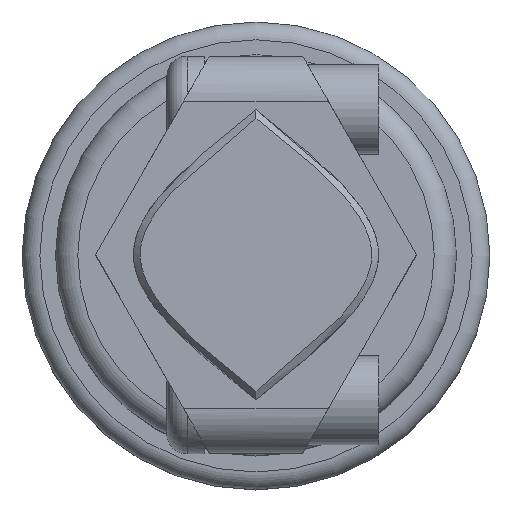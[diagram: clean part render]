
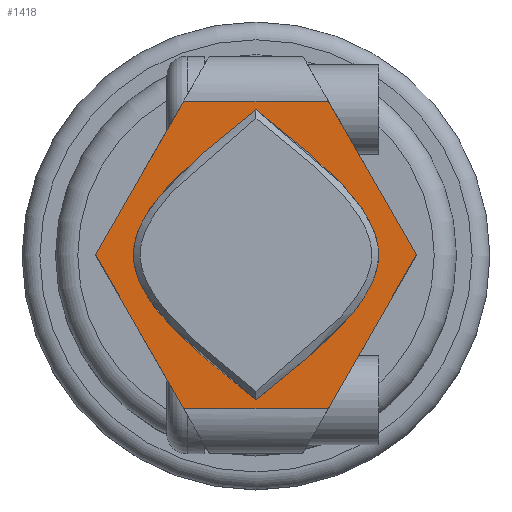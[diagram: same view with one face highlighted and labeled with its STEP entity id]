
A CAD part, top view. The second image highlights one B-rep face of the part: STEP entity #1418.
In plain terms, the highlighted planar face has unit normal (0, 0, 1).
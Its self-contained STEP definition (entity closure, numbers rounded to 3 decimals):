
#1 = VERTEX_POINT ( 'NONE', #843 ) ;
#45 = ORIENTED_EDGE ( 'NONE', *, *, #2322, .T. ) ;
#62 = EDGE_CURVE ( 'NONE', #567, #2401, #151, .T. ) ;
#80 = EDGE_LOOP ( 'NONE', ( #1113, #2227 ) ) ;
#115 = VECTOR ( 'NONE', #480, 1000. ) ;
#127 = CARTESIAN_POINT ( 'NONE',  ( -3.246, -6.9, 41. ) ) ;
#151 = LINE ( 'NONE', #912, #1355 ) ;
#182 = VECTOR ( 'NONE', #1754, 1000. ) ;
#225 = LINE ( 'NONE', #617, #182 ) ;
#233 = DIRECTION ( 'NONE',  ( -1., 0., 0. ) ) ;
#282 = DIRECTION ( 'NONE',  ( 0.497, 0.868, 0. ) ) ;
#293 = CARTESIAN_POINT ( 'NONE',  ( -2.1, 8.9, 41. ) ) ;
#325 = CARTESIAN_POINT ( 'NONE',  ( 0., -6.5, 41. ) ) ;
#425 = VERTEX_POINT ( 'NONE', #1971 ) ;
#437 = EDGE_CURVE ( 'NONE', #1, #425, #831, .T. ) ;
#440 = VECTOR ( 'NONE', #233, 1000. ) ;
#480 = DIRECTION ( 'NONE',  ( -0.497, 0.868, 0. ) ) ;
#510 = PLANE ( 'NONE',  #1686 ) ;
#531 = CARTESIAN_POINT ( 'NONE',  ( 0., 6.5, 41. ) ) ;
#567 = VERTEX_POINT ( 'NONE', #127 ) ;
#617 = CARTESIAN_POINT ( 'NONE',  ( -2.1, -8.9, 41. ) ) ;
#619 = EDGE_CURVE ( 'NONE', #425, #1793, #720, .T. ) ;
#668 = CARTESIAN_POINT ( 'NONE',  ( 3.246, -6.9, 41. ) ) ;
#675 = VERTEX_POINT ( 'NONE', #2482 ) ;
#691 = B_SPLINE_CURVE_WITH_KNOTS ( 'NONE', 3,
 ( #2279, #1078, #2420, #1296, #531 ),
 .UNSPECIFIED., .F., .F.,
 ( 4, 1, 4 ),
 ( 0., 0.5, 1. ),
 .UNSPECIFIED. ) ;
#696 = CARTESIAN_POINT ( 'NONE',  ( -2.1, -8.9, 41. ) ) ;
#698 = CARTESIAN_POINT ( 'NONE',  ( 0., 6.5, 41. ) ) ;
#720 = LINE ( 'NONE', #293, #1952 ) ;
#752 = EDGE_LOOP ( 'NONE', ( #45, #2250, #1090, #1349, #825, #1676 ) ) ;
#825 = ORIENTED_EDGE ( 'NONE', *, *, #62, .T. ) ;
#830 = LINE ( 'NONE', #2026, #1545 ) ;
#831 = LINE ( 'NONE', #1222, #440 ) ;
#843 = CARTESIAN_POINT ( 'NONE',  ( 3.246, 6.9, 41. ) ) ;
#912 = CARTESIAN_POINT ( 'NONE',  ( -2.1, -6.9, 41. ) ) ;
#930 = CARTESIAN_POINT ( 'NONE',  ( -8.25, 0., 41. ) ) ;
#994 = FACE_OUTER_BOUND ( 'NONE', #752, .T. ) ;
#1056 = DIRECTION ( 'NONE',  ( -0.497, -0.868, 0. ) ) ;
#1078 = CARTESIAN_POINT ( 'NONE',  ( 2.75, -4.333, 41. ) ) ;
#1090 = ORIENTED_EDGE ( 'NONE', *, *, #619, .T. ) ;
#1107 = B_SPLINE_CURVE_WITH_KNOTS ( 'NONE', 3,
 ( #698, #1879, #930, #1714, #325 ),
 .UNSPECIFIED., .F., .F.,
 ( 4, 1, 4 ),
 ( 0., 0.5, 1. ),
 .UNSPECIFIED. ) ;
#1113 = ORIENTED_EDGE ( 'NONE', *, *, #1604, .F. ) ;
#1217 = EDGE_CURVE ( 'NONE', #1793, #567, #225, .T. ) ;
#1222 = CARTESIAN_POINT ( 'NONE',  ( -2.1, 6.9, 41. ) ) ;
#1240 = VERTEX_POINT ( 'NONE', #1263 ) ;
#1263 = CARTESIAN_POINT ( 'NONE',  ( 0., -6.5, 41. ) ) ;
#1296 = CARTESIAN_POINT ( 'NONE',  ( 2.75, 4.333, 41. ) ) ;
#1349 = ORIENTED_EDGE ( 'NONE', *, *, #1217, .T. ) ;
#1355 = VECTOR ( 'NONE', #1502, 1000. ) ;
#1410 = VERTEX_POINT ( 'NONE', #1968 ) ;
#1418 = ADVANCED_FACE ( 'NONE', ( #994, #1774 ), #510, .F. ) ;
#1502 = DIRECTION ( 'NONE',  ( 1., 0., 0. ) ) ;
#1545 = VECTOR ( 'NONE', #282, 1000. ) ;
#1554 = CARTESIAN_POINT ( 'NONE',  ( -7.2, 0., 41. ) ) ;
#1591 = LINE ( 'NONE', #2186, #115 ) ;
#1604 = EDGE_CURVE ( 'NONE', #1240, #675, #691, .T. ) ;
#1676 = ORIENTED_EDGE ( 'NONE', *, *, #2430, .T. ) ;
#1686 = AXIS2_PLACEMENT_3D ( 'NONE', #696, #2066, #2460 ) ;
#1714 = CARTESIAN_POINT ( 'NONE',  ( -2.75, -4.333, 41. ) ) ;
#1754 = DIRECTION ( 'NONE',  ( 0.497, -0.868, 0. ) ) ;
#1774 = FACE_BOUND ( 'NONE', #80, .T. ) ;
#1793 = VERTEX_POINT ( 'NONE', #1554 ) ;
#1879 = CARTESIAN_POINT ( 'NONE',  ( -2.75, 4.333, 41. ) ) ;
#1952 = VECTOR ( 'NONE', #1056, 1000. ) ;
#1968 = CARTESIAN_POINT ( 'NONE',  ( 7.2, 0., 41. ) ) ;
#1971 = CARTESIAN_POINT ( 'NONE',  ( -3.246, 6.9, 41. ) ) ;
#2026 = CARTESIAN_POINT ( 'NONE',  ( 2.1, -8.9, 41. ) ) ;
#2064 = EDGE_CURVE ( 'NONE', #675, #1240, #1107, .T. ) ;
#2066 = DIRECTION ( 'NONE',  ( 0., 0., -1. ) ) ;
#2186 = CARTESIAN_POINT ( 'NONE',  ( 2.1, 8.9, 41. ) ) ;
#2227 = ORIENTED_EDGE ( 'NONE', *, *, #2064, .F. ) ;
#2250 = ORIENTED_EDGE ( 'NONE', *, *, #437, .T. ) ;
#2279 = CARTESIAN_POINT ( 'NONE',  ( 0., -6.5, 41. ) ) ;
#2322 = EDGE_CURVE ( 'NONE', #1410, #1, #1591, .T. ) ;
#2401 = VERTEX_POINT ( 'NONE', #668 ) ;
#2420 = CARTESIAN_POINT ( 'NONE',  ( 8.25, 0., 41. ) ) ;
#2430 = EDGE_CURVE ( 'NONE', #2401, #1410, #830, .T. ) ;
#2460 = DIRECTION ( 'NONE',  ( -1., 0., 0. ) ) ;
#2482 = CARTESIAN_POINT ( 'NONE',  ( 0., 6.5, 41. ) ) ;
